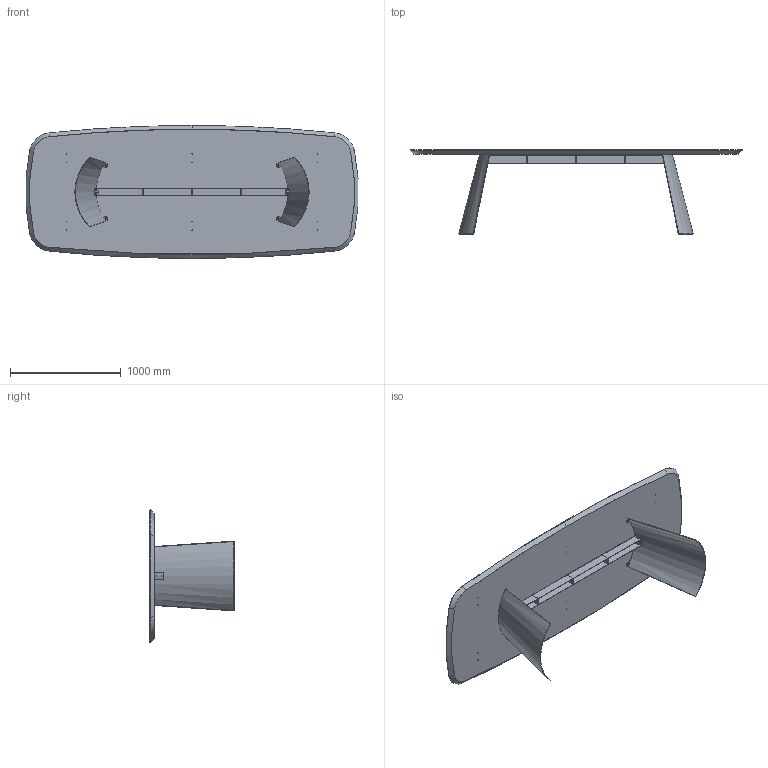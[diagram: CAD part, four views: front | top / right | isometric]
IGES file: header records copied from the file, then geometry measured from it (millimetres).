
Start section: SolidWorks IGES file using analytic representation for surfaces
Global section: file name: Y:\eforma\TECNICO\SOLIDWORKS\E-FORMA\1-TAVOLI\DORIAN\02 parts-rev 01\DN44W.IGS; native system: SolidWorks 2022; preprocessor: SolidWorks 2022; author: eforma.tech; date: 240807.171312; units: millimetre
Bounding box: 2991.72 x 758 x 1200 mm (x, y, z)
Volume: 128945795.2 mm3; surface area: 9617670.6 mm2
Topology: 19 solids, 19 shells, 377 faces, 962 edges, 604 vertices
Faces by surface type: revolution 201, plane 158, bspline 18
